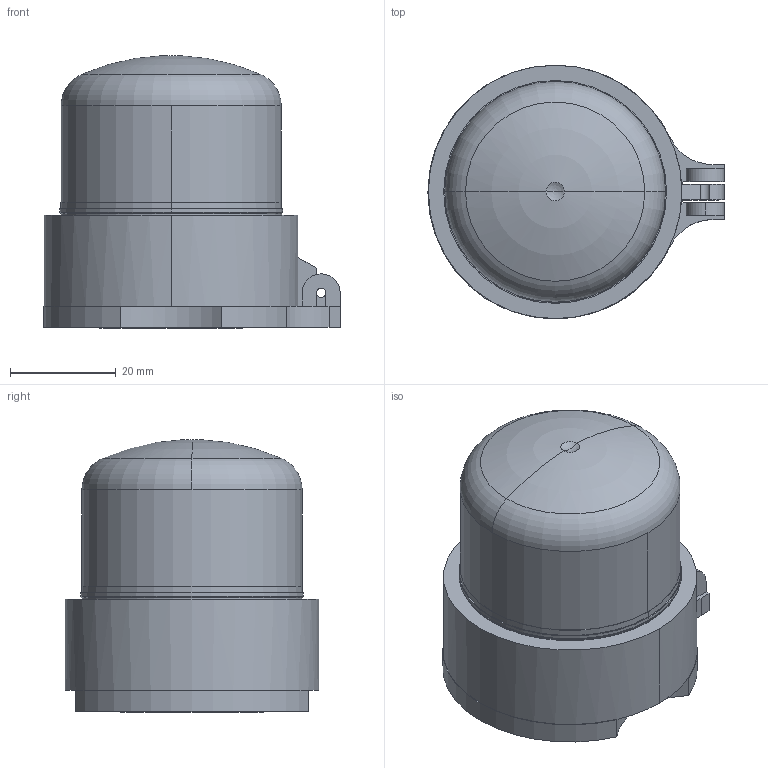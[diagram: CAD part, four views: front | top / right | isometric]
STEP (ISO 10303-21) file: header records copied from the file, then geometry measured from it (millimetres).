
FILE_DESCRIPTION( ( '' ), '1' );
FILE_NAME( '//expscmdclustefs.cadenas.external/client_exchange/iodir/jobs/output/wkb45453997_no0/STEP/216397_2_03.stp', '2012-05-30T15:43:47', ( '' ), ( '' ), ' ', ' ', ' ' );
FILE_SCHEMA( ( 'CONFIG_CONTROL_DESIGN' ) );
Length unit declared in the file: millimetre
Products named in the file (1): 1
Bounding box: 56.1 x 48 x 51.6 mm (x, y, z)
Volume: 16166.3 mm3; surface area: 18377.8 mm2
Topology: 1 solids, 1 shells, 105 faces, 280 edges, 177 vertices
Faces by surface type: plane 47, cylinder 40, sphere 8, cone 6, torus 4
Entity records: 3317 total; most frequent: DIRECTION 611, CARTESIAN_POINT 559, ORIENTED_EDGE 552, EDGE_CURVE 276, AXIS2_PLACEMENT_3D 229, VERTEX_POINT 177, LINE 153, VECTOR 153
